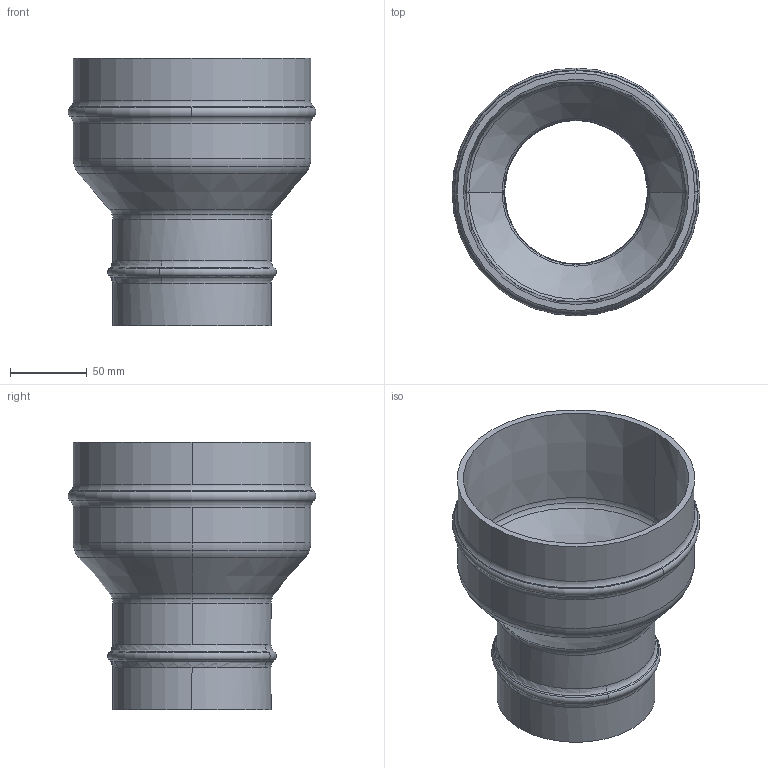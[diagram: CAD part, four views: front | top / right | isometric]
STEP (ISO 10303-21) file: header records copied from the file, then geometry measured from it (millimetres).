
FILE_DESCRIPTION((''),'2;1');
FILE_NAME('2012982100','2017-05-12T',('Administrator'),(''),'PRO/ENGINEER BY PARAMETRIC TECHNOLOGY CORPORATION, 2009360','PRO/ENGINEER BY PARAMETRIC TECHNOLOGY CORPORATION, 2009360','');
FILE_SCHEMA(('AUTOMOTIVE_DESIGN_CC2 { 1 2 10303 214 -1 1 5 2 }'));
Length unit declared in the file: millimetre
Products named in the file (1): 2012982100
Bounding box: 161.3 x 161.3 x 173.86 mm (x, y, z)
Volume: 336412.1 mm3; surface area: 147019.7 mm2
Topology: 1 solids, 1 shells, 54 faces, 120 edges, 68 vertices
Faces by surface type: torus 28, cone 16, cylinder 8, plane 2
Entity records: 1907 total; most frequent: DIRECTION 324, CARTESIAN_POINT 242, ORIENTED_EDGE 240, AXIS2_PLACEMENT_3D 150, PRESENTATION_STYLE_ASSIGNMENT 121, STYLED_ITEM 121, CURVE_STYLE 120, EDGE_CURVE 120
